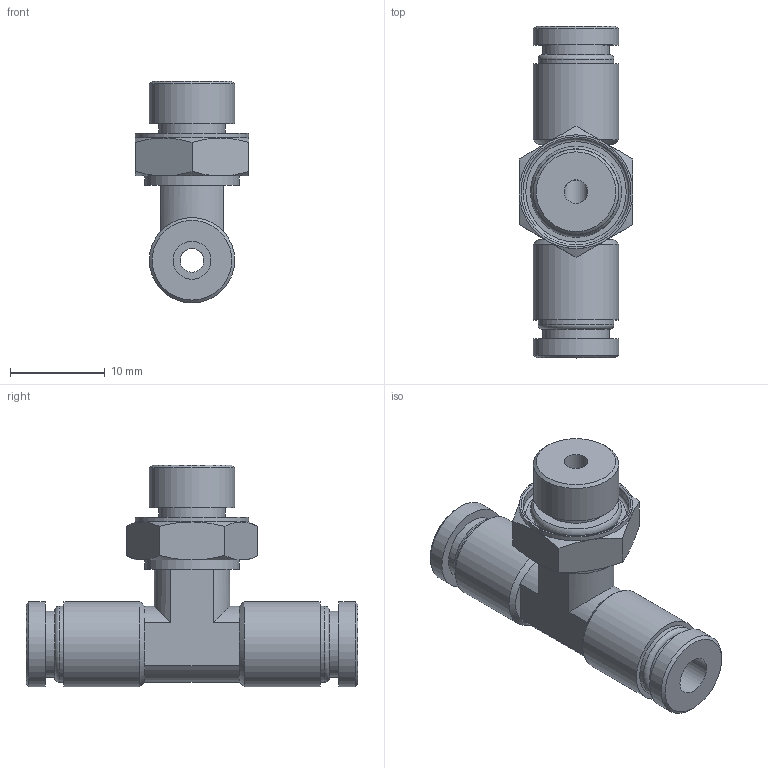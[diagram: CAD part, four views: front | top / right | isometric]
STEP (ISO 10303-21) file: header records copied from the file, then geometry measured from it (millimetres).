
FILE_DESCRIPTION(/* description */ (''),/* implementation_level */ '2;1');
FILE_NAME(/* name */ 'LXH38 0004 B1.stp',/* time_stamp */ '2026-04-24T18:53:36+02:00',/* author */ ('freju'),/* organization */ (''),/* preprocessor_version */ 'ST-DEVELOPER v20.1',/* originating_system */ 'Autodesk Inventor 2026',/* authorisation */ '');
FILE_SCHEMA (('AUTOMOTIVE_DESIGN { 1 0 10303 214 3 1 1 }'));
Length unit declared in the file: millimetre
Products named in the file (4): LXH38 0004 B1; LXH38 0404 B1; O-Ring; ISO 3601-1 - A 0060 G
Assembly tree (3 placements, depth 3):
  LXH38 0004 B1
    LXH38 0404 B1
    O-Ring
      ISO 3601-1 - A 0060 G
Bounding box: 12 x 35 x 23.4 mm (x, y, z)
Volume: 2604.4 mm3; surface area: 2575.3 mm2
Topology: 2 solids, 2 shells, 77 faces, 162 edges, 100 vertices
Faces by surface type: plane 29, cylinder 23, cone 17, torus 8
Full cylindrical faces by diameter (mm): 2.5 x2, 4 x2, 6 x1, 7 x3, 8 x2, 9 x5, 10 x1, 11.2 x1, 12 x1
Entity records: 2206 total; most frequent: DIRECTION 398, CARTESIAN_POINT 394, ORIENTED_EDGE 324, AXIS2_PLACEMENT_3D 176, EDGE_CURVE 162, VERTEX_POINT 100, EDGE_LOOP 94, CIRCLE 88
